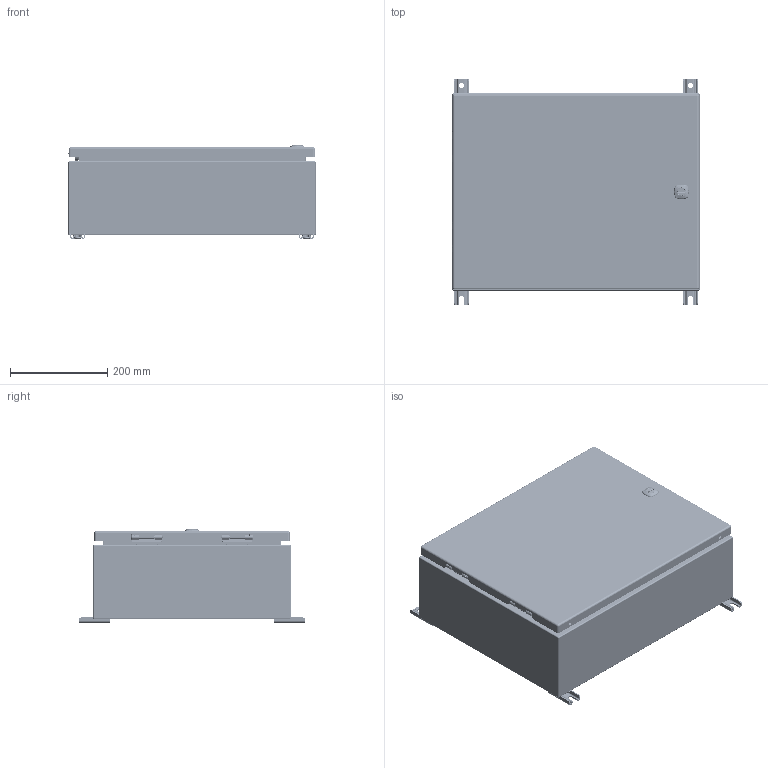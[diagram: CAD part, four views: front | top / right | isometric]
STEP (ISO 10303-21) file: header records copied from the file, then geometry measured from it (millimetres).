
FILE_DESCRIPTION(/* description */ ('5412ESTH 16" x 20" x 6" Assembly'),/* implementation_level */ '2;1');
FILE_NAME(/* name */ 'C:\Vault_Workspace\Inventor_Dwg\BoxCad\Result\5412ESTH162006\e-mail\3D\5412ESTH162006.stp',/* time_stamp */ '2023-05-03T12:44:27-04:00',/* author */ ('BoxCad'),/* organization */ (''),/* preprocessor_version */ 'ST-DEVELOPER v18.1',/* originating_system */ 'Autodesk Inventor 2020',/* authorisation */ '');
FILE_SCHEMA (('AUTOMOTIVE_DESIGN { 1 0 10303 214 3 1 1 }'));
Products named in the file (50): 5412ESTH162006; 5412ESTH162006B; 5412ESTH162006B-P; STK-Q-16005; 5412ESTH162006I-B; 5412ESTH162006I-TP; 5412ESTH162006I-BT; 5412ESTH162006I-LS; 5412ESTH162006I-RS; 5412ESTH162006BR; STK-A-70554; STK-Q-05021; STK-Q-07270; STK-A-70554TH-1; STK-Q-70554; 885ESMF3-Feet-A; 885ESMF3-Feet; STK-Q-06660; RIVET_NUT_M10_FH_CE; 5412ESTH162006C; 5412ESTH162006C-P; 5412ESTH162006G; STK-K-09800; STK-K-09800-2; STK-Q-33014; STK-Q-90398; STK-Q-40095; STK-Q-63410; STK-Q-16055; STK-P-02400S; 5412ESTH162006I-C; STK-Q-46020-16; STK-Q-07250; STK-S-00100; STK-K-12500-1; STK-Q-78111; STK-Q-78120; STK-Q-78145; STK-Q-03200; STK-Q-78141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
Assembly tree (90 placements, depth 5):
  5412ESTH162006
    5412ESTH162006B
      5412ESTH162006B-P
      STK-Q-16005  x4
      STK-P-02400S
      STK-Q-16055  x4
      5412ESTH162006I-B
      5412ESTH162006I-TP
      5412ESTH162006I-BT
      5412ESTH162006I-LS
      5412ESTH162006I-RS
      5412ESTH162006BR
        STK-A-70554
          STK-Q-70554
          STK-Q-05021
          STK-Q-07270
        STK-A-70554TH-1  x3
          STK-Q-70554
          STK-Q-07250
      885ESMF3-Feet-A  x2
      STK-Q-06660  x4
      RIVET_NUT_M10_FH_CE  x4
      885ESMF3-Feet  x2
    5412ESTH162006C
      5412ESTH162006C-P
      5412ESTH162006G
      STK-K-09800
        STK-Q-33014
        STK-Q-90398
        STK-Q-40095  x2
        STK-Q-63410  x2
      STK-K-09800-2
        STK-Q-33014
        STK-Q-90398
        STK-Q-40095  x2
        STK-Q-63410  x2
      STK-Q-16055  x4
      STK-P-02400S
      5412ESTH162006I-C
      STK-Q-46020-16  x2
      STK-Q-07250  x4
      STK-S-00100  x2
      STK-K-12500-1
        STK-Q-78111
        STK-Q-78120
        STK-Q-78145
        STK-Q-03200
        STK-Q-78141
        STK-Q-90390
        STK-Q-78160
    STK-Q-04050-08-1
      STK-Q-04050-08-P
      STK-Q-04051-N
    STK-Q-04050-08-2
      STK-Q-04050-08-P
      STK-Q-04051-N
    STK-A-01800
    881SP2016G
      881SP2016G-P
    STK-Q-00600  x4
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Bounding box: 508.07 x 463.55 x 192.98 mm (x, y, z)
Volume: 12872656 mm3; surface area: 3503179.9 mm2
Topology: 78 solids, 78 shells, 12566 faces, 33944 edges, 21768 vertices
Faces by surface type: bspline 4236, plane 3604, cylinder 3593, torus 693, cone 303, sphere 137
Full cylindrical faces by diameter (mm): 0.75 x12, 0.762 x12, 1 x8, 1.1 x8, 3.2 x4, 4.191 x24, 4.5 x8, 4.521 x8, 4.75 x1, 4.85 x16, 4.95 x4, 5.1 x121, 5.6 x2, 5.9 x20, 6.015 x24, 6.496 x8, 6.65 x4, 6.8 x60, 7.3 x2, 7.35 x8, 7.366 x4, 7.9 x8, 8 x4, 8.382 x2, 8.5 x4, 9.5 x1, 9.6 x1, 9.7 x36, 10 x1, 10.312 x6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
Entity records: 202831 total; most frequent: CARTESIAN_POINT 83883, ORIENTED_EDGE 26730, DIRECTION 20667, EDGE_CURVE 13365, VERTEX_POINT 8461, AXIS2_PLACEMENT_3D 7363, LINE 5941, VECTOR 5941
